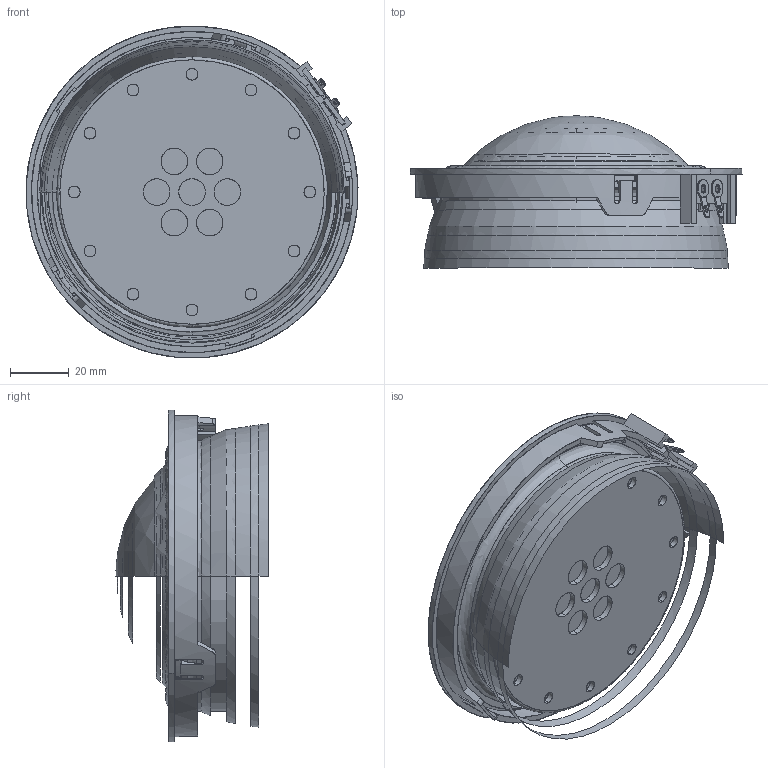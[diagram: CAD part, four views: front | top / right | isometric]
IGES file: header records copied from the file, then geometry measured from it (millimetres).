
Start section: SolidWorks IGES file using analytic representation for surfaces
Global section: file name: W:\TT\WEB 3D enheder\WEB D7608_920000\D7608-920000.IGS; native system: SolidWorks 2019; preprocessor: SolidWorks 2019; author: mhn; date: 201022.074729; units: millimetre
Bounding box: 112.67 x 51.7 x 112.66 mm (x, y, z)
Surface area: 42497.7 mm2 (no closed solid volume)
Topology: 0 solids, 0 shells, 351 faces, 4998 edges, 4989 vertices
Faces by surface type: bspline 181, revolution 170
